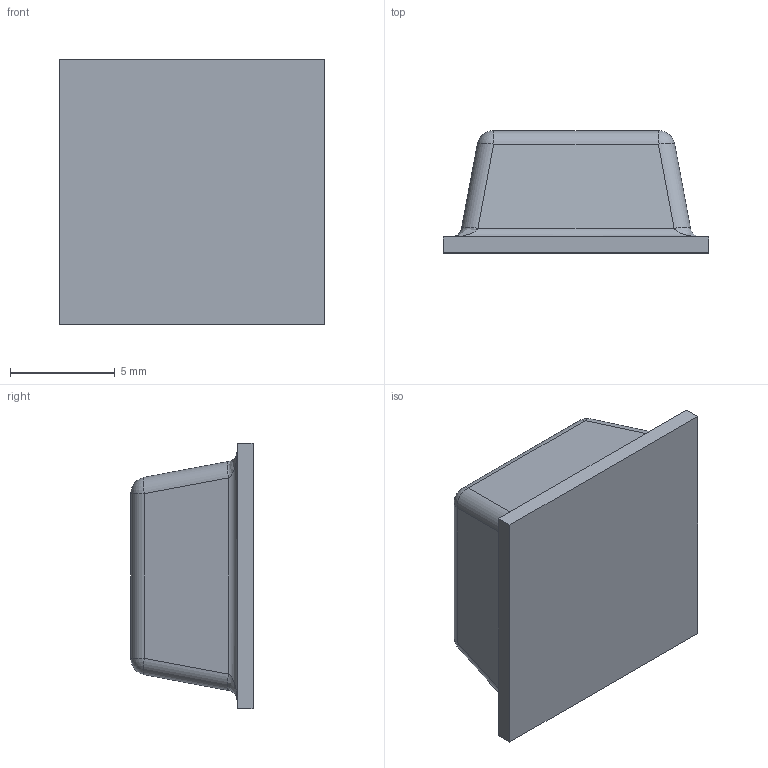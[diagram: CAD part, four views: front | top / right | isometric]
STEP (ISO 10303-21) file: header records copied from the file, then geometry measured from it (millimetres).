
FILE_DESCRIPTION(/* description */ (''),/* implementation_level */ '2;1');
FILE_NAME(/* name */ 'C:/Users/Mark/Downloads/STEP Files/BS03.step',/* time_stamp */ '2020-02-10T10:55:08-05:00',/* author */ (''),/* organization */ (''),/* preprocessor_version */ 'ST-DEVELOPER v18',/* originating_system */ 'Autodesk Translation Framework v8.12.0.6',/* authorisation */ '');
FILE_SCHEMA (('AUTOMOTIVE_DESIGN { 1 0 10303 214 3 1 1 }'));
Length unit declared in the file: inch
Products named in the file (1): BS03
Bounding box: 12.7 x 5.84 x 12.7 mm (x, y, z)
Volume: 643.6 mm3; surface area: 512 mm2
Topology: 1 solids, 1 shells, 31 faces, 64 edges, 32 vertices
Faces by surface type: cylinder 12, plane 11, sphere 4, bspline 4
Entity records: 885 total; most frequent: CARTESIAN_POINT 220, DIRECTION 140, ORIENTED_EDGE 120, EDGE_CURVE 60, AXIS2_PLACEMENT_3D 52, LINE 36, VECTOR 36, EDGE_LOOP 32
